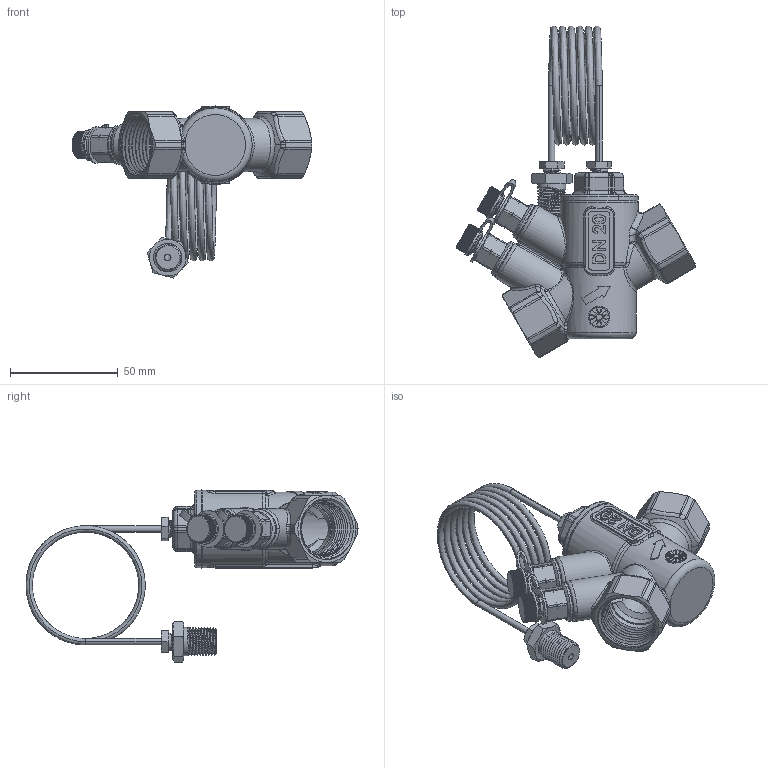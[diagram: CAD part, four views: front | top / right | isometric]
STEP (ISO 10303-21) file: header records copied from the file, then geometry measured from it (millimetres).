
FILE_DESCRIPTION (( 'STEP AP203' ), '1' );
FILE_NAME ('SDP.20 ABHouse DN20 ISO FF PTplugs.step', '2024-04-12T07:27:22', ( '' ), ( '' ), 'SwSTEP 2.0', 'SolidWorks 2023', '' );
FILE_SCHEMA (( 'CONFIG_CONTROL_DESIGN' ));
Products named in the file (1): SDP.20 ABHouse DN20 ISO FF PTplugs
Bounding box: 111.13 x 153.79 x 79.69 mm (x, y, z)
Surface area: 39980 mm2 (no closed solid volume)
Topology: 0 solids, 25 shells, 2209 faces, 11842 edges, 8876 vertices
Faces by surface type: bspline 921, cylinder 763, plane 253, cone 158, torus 78, sphere 36
Entity records: 358496 total; most frequent: CARTESIAN_POINT 291306, ORIENTED_EDGE 16723, EDGE_CURVE 11809, B_SPLINE_CURVE_WITH_KNOTS 9553, VERTEX_POINT 8872, DIRECTION 5805, AXIS2_PLACEMENT_3D 2430, EDGE_LOOP 2281
